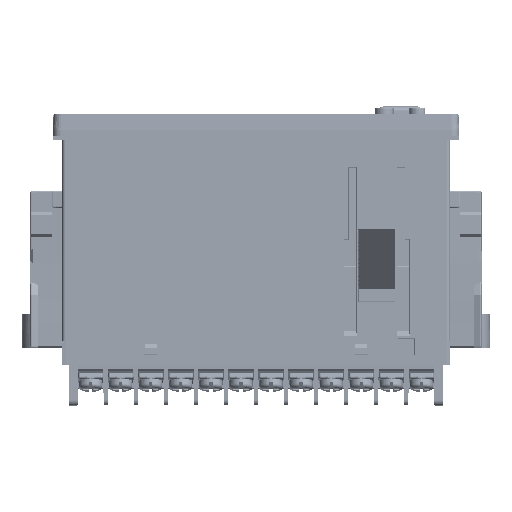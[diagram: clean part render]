
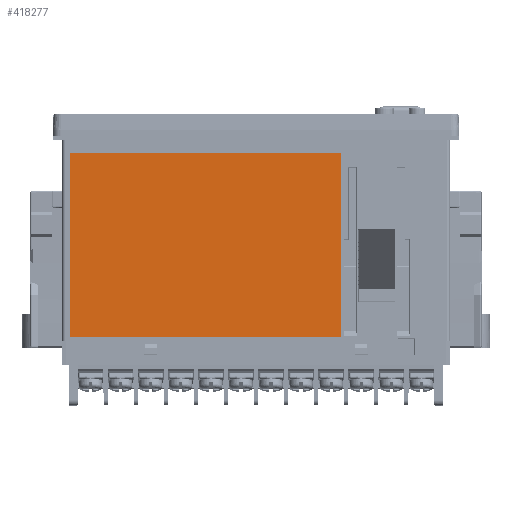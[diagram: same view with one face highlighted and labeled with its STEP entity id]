
A CAD part, left-side view. The second image highlights one B-rep face of the part: STEP entity #418277.
In plain terms, the highlighted planar face has unit normal (-1, 0, 0).
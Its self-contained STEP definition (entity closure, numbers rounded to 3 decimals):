
#83766 = DIRECTION ( 'NONE',  ( 0., 1., 0. ) ) ;
#87261 = CARTESIAN_POINT ( 'NONE',  ( -45.625, -20., -48.9 ) ) ;
#103860 = PLANE ( 'NONE',  #359269 ) ;
#109090 = CARTESIAN_POINT ( 'NONE',  ( -45.625, 44., -5.4 ) ) ;
#121760 = VERTEX_POINT ( 'NONE', #109090 ) ;
#121812 = CARTESIAN_POINT ( 'NONE',  ( -45.625, -20., -48.9 ) ) ;
#132711 = ORIENTED_EDGE ( 'NONE', *, *, #217282, .T. ) ;
#141481 = DIRECTION ( 'NONE',  ( 0., 0., 1. ) ) ;
#145076 = CARTESIAN_POINT ( 'NONE',  ( -45.625, 44., -48.9 ) ) ;
#157149 = LINE ( 'NONE', #327075, #431996 ) ;
#164465 = VERTEX_POINT ( 'NONE', #341640 ) ;
#168026 = VECTOR ( 'NONE', #270474, 1000. ) ;
#192488 = VERTEX_POINT ( 'NONE', #366703 ) ;
#217282 = EDGE_CURVE ( 'NONE', #121760, #164465, #157149, .T. ) ;
#263143 = EDGE_CURVE ( 'NONE', #164465, #485538, #306536, .T. ) ;
#266032 = LINE ( 'NONE', #345398, #377351 ) ;
#270474 = DIRECTION ( 'NONE',  ( 0., 0., 1. ) ) ;
#279113 = LINE ( 'NONE', #121812, #168026 ) ;
#306536 = LINE ( 'NONE', #145076, #429444 ) ;
#313433 = ORIENTED_EDGE ( 'NONE', *, *, #484564, .T. ) ;
#327075 = CARTESIAN_POINT ( 'NONE',  ( -45.625, 44., -48.9 ) ) ;
#341640 = CARTESIAN_POINT ( 'NONE',  ( -45.625, 44., -48.9 ) ) ;
#345398 = CARTESIAN_POINT ( 'NONE',  ( -45.625, 44., -5.4 ) ) ;
#351256 = FACE_OUTER_BOUND ( 'NONE', #477223, .T. ) ;
#359269 = AXIS2_PLACEMENT_3D ( 'NONE', #438978, #365403, #141481 ) ;
#365403 = DIRECTION ( 'NONE',  ( -1., 0., 0. ) ) ;
#366703 = CARTESIAN_POINT ( 'NONE',  ( -45.625, -20., -5.4 ) ) ;
#369022 = DIRECTION ( 'NONE',  ( 0., -1., 0. ) ) ;
#373247 = EDGE_CURVE ( 'NONE', #192488, #121760, #266032, .T. ) ;
#377351 = VECTOR ( 'NONE', #83766, 1000. ) ;
#399799 = ORIENTED_EDGE ( 'NONE', *, *, #263143, .T. ) ;
#400675 = DIRECTION ( 'NONE',  ( 0., 0., -1. ) ) ;
#418277 = ADVANCED_FACE ( 'NONE', ( #351256 ), #103860, .T. ) ;
#429444 = VECTOR ( 'NONE', #369022, 1000. ) ;
#431996 = VECTOR ( 'NONE', #400675, 1000. ) ;
#438978 = CARTESIAN_POINT ( 'NONE',  ( -45.625, -20., -48.9 ) ) ;
#457406 = ORIENTED_EDGE ( 'NONE', *, *, #373247, .T. ) ;
#477223 = EDGE_LOOP ( 'NONE', ( #399799, #313433, #457406, #132711 ) ) ;
#484564 = EDGE_CURVE ( 'NONE', #485538, #192488, #279113, .T. ) ;
#485538 = VERTEX_POINT ( 'NONE', #87261 ) ;
